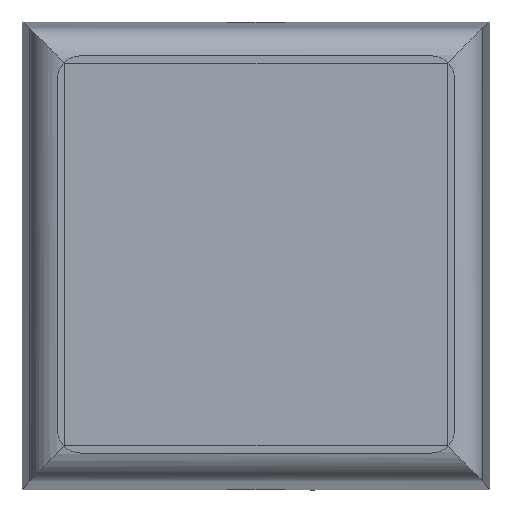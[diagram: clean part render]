
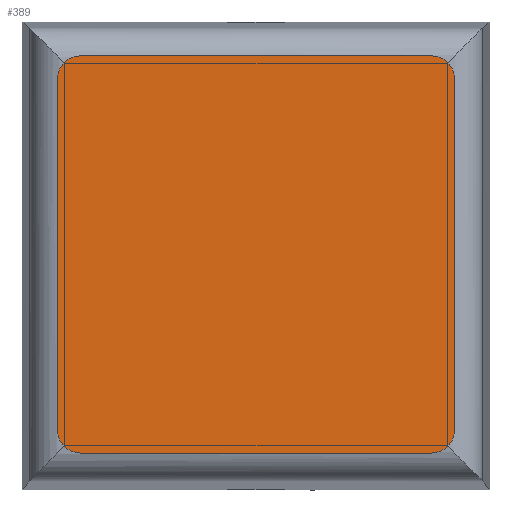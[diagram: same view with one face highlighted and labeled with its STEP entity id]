
A CAD part, top view. The second image highlights one B-rep face of the part: STEP entity #389.
In plain terms, the highlighted planar face has unit normal (0, 0, 1).
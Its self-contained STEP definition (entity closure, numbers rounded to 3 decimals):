
#73=CARTESIAN_POINT('',(15.,17.,68.339));
#74=VERTEX_POINT('',#73);
#75=CARTESIAN_POINT('',(17.,15.,68.339));
#76=VERTEX_POINT('',#75);
#77=CARTESIAN_POINT('',(15.,15.,68.339));
#78=DIRECTION('',(0.,0.,-1.0));
#79=DIRECTION('',(0.707,0.707,0.));
#80=AXIS2_PLACEMENT_3D('',#77,#78,#79);
#81=CIRCLE('',#80,2.0);
#82=EDGE_CURVE('',#74,#76,#81,.T.);
#124=CARTESIAN_POINT('',(-15.,17.,68.339));
#125=VERTEX_POINT('',#124);
#132=CARTESIAN_POINT('',(-15.,17.,68.339));
#133=DIRECTION('',(1.0,0.0,0.0));
#134=VECTOR('',#133,30.0);
#135=LINE('',#132,#134);
#136=EDGE_CURVE('',#125,#74,#135,.T.);
#239=CARTESIAN_POINT('',(17.,-15.,68.339));
#240=VERTEX_POINT('',#239);
#241=CARTESIAN_POINT('',(15.,-17.,68.339));
#242=VERTEX_POINT('',#241);
#243=CARTESIAN_POINT('',(15.,-15.,68.339));
#244=DIRECTION('',(0.,0.,-1.0));
#245=DIRECTION('',(0.707,-0.707,0.));
#246=AXIS2_PLACEMENT_3D('',#243,#244,#245);
#247=CIRCLE('',#246,2.0);
#248=EDGE_CURVE('',#240,#242,#247,.T.);
#272=CARTESIAN_POINT('',(-15.,-17.,68.339));
#273=VERTEX_POINT('',#272);
#274=CARTESIAN_POINT('',(15.,-17.,68.339));
#275=DIRECTION('',(-1.0,0.0,0.0));
#276=VECTOR('',#275,30.0);
#277=LINE('',#274,#276);
#278=EDGE_CURVE('',#242,#273,#277,.T.);
#295=CARTESIAN_POINT('',(-17.,-15.,68.339));
#296=VERTEX_POINT('',#295);
#297=CARTESIAN_POINT('',(-15.,-15.,68.339));
#298=DIRECTION('',(0.,0.,-1.0));
#299=DIRECTION('',(-0.707,-0.707,0.));
#300=AXIS2_PLACEMENT_3D('',#297,#298,#299);
#301=CIRCLE('',#300,2.0);
#302=EDGE_CURVE('',#273,#296,#301,.T.);
#320=CARTESIAN_POINT('',(-17.,15.,68.339));
#321=VERTEX_POINT('',#320);
#322=CARTESIAN_POINT('',(-15.,15.,68.339));
#323=DIRECTION('',(0.,0.,-1.0));
#324=DIRECTION('',(-0.707,0.707,0.));
#325=AXIS2_PLACEMENT_3D('',#322,#323,#324);
#326=CIRCLE('',#325,2.0);
#327=EDGE_CURVE('',#321,#125,#326,.T.);
#346=CARTESIAN_POINT('',(-17.,-15.,68.339));
#347=DIRECTION('',(0.0,1.0,0.));
#348=VECTOR('',#347,30.0);
#349=LINE('',#346,#348);
#350=EDGE_CURVE('',#296,#321,#349,.T.);
#363=CARTESIAN_POINT('',(17.,15.,68.339));
#364=DIRECTION('',(0.0,-1.0,0.));
#365=VECTOR('',#364,30.0);
#366=LINE('',#363,#365);
#367=EDGE_CURVE('',#76,#240,#366,.T.);
#374=CARTESIAN_POINT('',(0.,0.,68.339));
#375=DIRECTION('',(0.,0.,1.0));
#376=DIRECTION('',(0.,-1.0,0.));
#377=AXIS2_PLACEMENT_3D('',#374,#375,#376);
#378=PLANE('',#377);
#379=ORIENTED_EDGE('',*,*,#82,.F.);
#380=ORIENTED_EDGE('',*,*,#136,.F.);
#381=ORIENTED_EDGE('',*,*,#327,.F.);
#382=ORIENTED_EDGE('',*,*,#350,.F.);
#383=ORIENTED_EDGE('',*,*,#302,.F.);
#384=ORIENTED_EDGE('',*,*,#278,.F.);
#385=ORIENTED_EDGE('',*,*,#248,.F.);
#386=ORIENTED_EDGE('',*,*,#367,.F.);
#387=EDGE_LOOP('',(#379,#380,#381,#382,#383,#384,#385,#386));
#388=FACE_OUTER_BOUND('',#387,.T.);
#389=ADVANCED_FACE('',(#388),#378,.T.);
